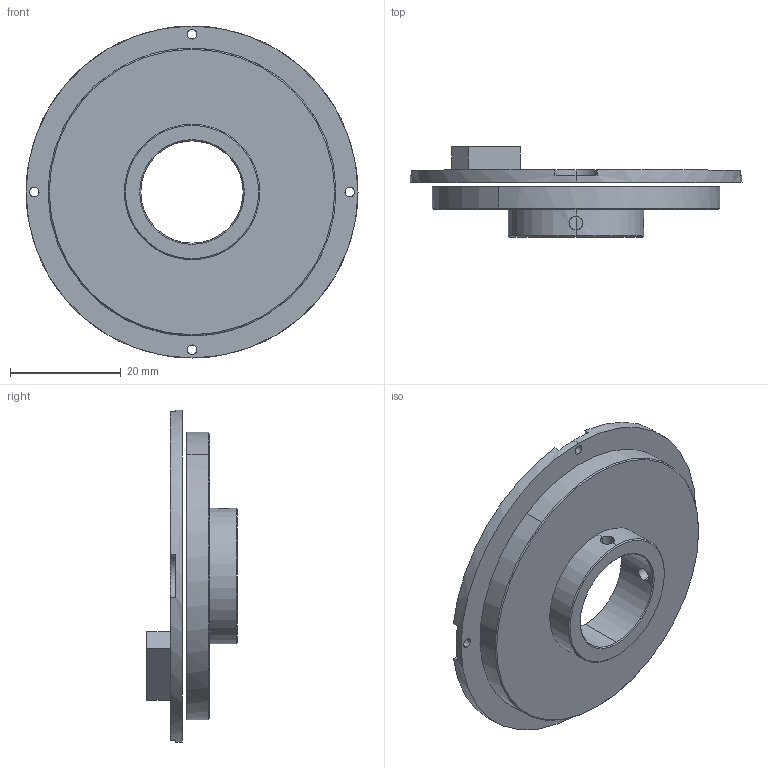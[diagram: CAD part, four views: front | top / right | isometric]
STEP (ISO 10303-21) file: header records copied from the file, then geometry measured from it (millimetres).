
FILE_DESCRIPTION (( 'STEP AP214' ), '1' );
FILE_NAME ('GRIA60S36-GID52S18-¶àÈ¦.STEP', '2022-07-28T02:52:34', ( '' ), ( '' ), 'SwSTEP 2.0', 'SolidWorks 2016', '' );
FILE_SCHEMA (( 'AUTOMOTIVE_DESIGN' ));
Length unit declared in the file: millimetre
Products named in the file (5): GRIA60S36-GID52S18-多圈; R77030005  中空型编码器-转子—GID52S18-外径52㎜内径18.5mm-多圈-径向安装; R88500006  中空型-多圈绝对值旋转编码器-GRIA60S36-M16S17BIT-SHS-C-5V-定子
Assembly tree (2 placements, depth 2):
  GRIA60S36-GID52S18-多圈
    R88500006  中空型-多圈绝对值旋转编码器-GRIA60S36-M16S17BIT-SHS-C-5V-定子
    R77030005  中空型编码器-转子—GID52S18-外径52㎜内径18.5mm-多圈-径向安装
  R77030005  中空型编码器-转子—GID52S18-外径52㎜内径18.5mm-多圈-径向安装
  R88500006  中空型-多圈绝对值旋转编码器-GRIA60S36-M16S17BIT-SHS-C-5V-定子
Bounding box: 60 x 16.35 x 60 mm (x, y, z)
Volume: 11873.8 mm3; surface area: 9718.3 mm2
Topology: 2 solids, 2 shells, 54 faces, 139 edges, 90 vertices
Faces by surface type: cylinder 33, plane 15, cone 6
Entity records: 2340 total; most frequent: CARTESIAN_POINT 441, DIRECTION 325, ORIENTED_EDGE 278, EDGE_CURVE 139, AXIS2_PLACEMENT_3D 134, VERTEX_POINT 90, CIRCLE 74, EDGE_LOOP 71
